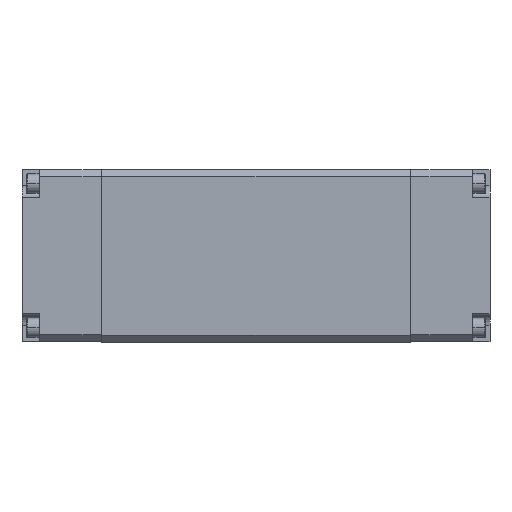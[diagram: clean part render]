
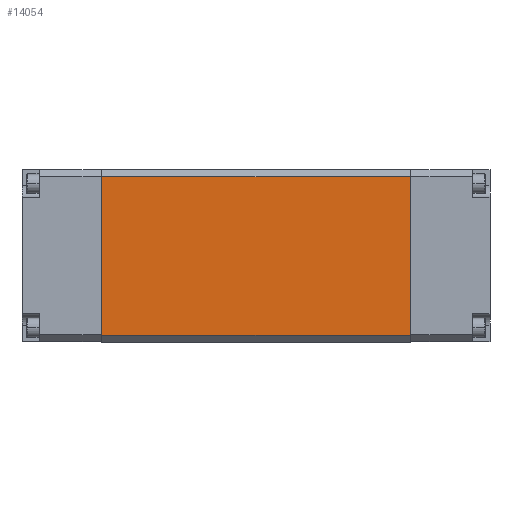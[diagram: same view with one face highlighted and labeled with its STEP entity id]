
A CAD part, top view. The second image highlights one B-rep face of the part: STEP entity #14054.
In plain terms, the highlighted planar face has unit normal (0, 0, 1).
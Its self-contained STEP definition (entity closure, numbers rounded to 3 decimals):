
#1025 = PLANE ( 'NONE',  #20260 ) ;
#1160 = DIRECTION ( 'NONE',  ( -1., 0., 0. ) ) ;
#1593 = VECTOR ( 'NONE', #20652, 1000. ) ;
#1890 = VERTEX_POINT ( 'NONE', #5555 ) ;
#2041 = VERTEX_POINT ( 'NONE', #17409 ) ;
#2678 = CARTESIAN_POINT ( 'NONE',  ( -44., 47., 24.5 ) ) ;
#2868 = DIRECTION ( 'NONE',  ( -1., 0., 0. ) ) ;
#2943 = ORIENTED_EDGE ( 'NONE', *, *, #16897, .T. ) ;
#3602 = EDGE_CURVE ( 'NONE', #6341, #9489, #5725, .T. ) ;
#4372 = CARTESIAN_POINT ( 'NONE',  ( 43.8, 49., 24.5 ) ) ;
#5137 = VECTOR ( 'NONE', #21028, 1000. ) ;
#5555 = CARTESIAN_POINT ( 'NONE',  ( -43.8, 47., 24.5 ) ) ;
#5725 = LINE ( 'NONE', #8500, #5137 ) ;
#5893 = VECTOR ( 'NONE', #13606, 1000. ) ;
#6341 = VERTEX_POINT ( 'NONE', #16641 ) ;
#6453 = LINE ( 'NONE', #4372, #1593 ) ;
#8500 = CARTESIAN_POINT ( 'NONE',  ( 44., 2., 24.5 ) ) ;
#9489 = VERTEX_POINT ( 'NONE', #11763 ) ;
#10218 = EDGE_CURVE ( 'NONE', #9489, #2041, #6453, .T. ) ;
#10275 = EDGE_CURVE ( 'NONE', #1890, #6341, #10687, .T. ) ;
#10687 = LINE ( 'NONE', #17151, #5893 ) ;
#10920 = EDGE_LOOP ( 'NONE', ( #2943, #14694, #17425, #19682 ) ) ;
#11763 = CARTESIAN_POINT ( 'NONE',  ( 43.8, 2., 24.5 ) ) ;
#13606 = DIRECTION ( 'NONE',  ( 0., -1., 0. ) ) ;
#13702 = DIRECTION ( 'NONE',  ( 0., 0., -1. ) ) ;
#14054 = ADVANCED_FACE ( 'NONE', ( #21017 ), #1025, .F. ) ;
#14616 = LINE ( 'NONE', #2678, #15174 ) ;
#14694 = ORIENTED_EDGE ( 'NONE', *, *, #10275, .T. ) ;
#15174 = VECTOR ( 'NONE', #1160, 1000. ) ;
#16641 = CARTESIAN_POINT ( 'NONE',  ( -43.8, 2., 24.5 ) ) ;
#16897 = EDGE_CURVE ( 'NONE', #2041, #1890, #14616, .T. ) ;
#17151 = CARTESIAN_POINT ( 'NONE',  ( -43.8, 49., 24.5 ) ) ;
#17409 = CARTESIAN_POINT ( 'NONE',  ( 43.8, 47., 24.5 ) ) ;
#17425 = ORIENTED_EDGE ( 'NONE', *, *, #3602, .T. ) ;
#19682 = ORIENTED_EDGE ( 'NONE', *, *, #10218, .T. ) ;
#20260 = AXIS2_PLACEMENT_3D ( 'NONE', #20899, #13702, #2868 ) ;
#20652 = DIRECTION ( 'NONE',  ( 0., 1., 0. ) ) ;
#20899 = CARTESIAN_POINT ( 'NONE',  ( 44., 49., 24.5 ) ) ;
#21017 = FACE_OUTER_BOUND ( 'NONE', #10920, .T. ) ;
#21028 = DIRECTION ( 'NONE',  ( 1., 0., 0. ) ) ;
